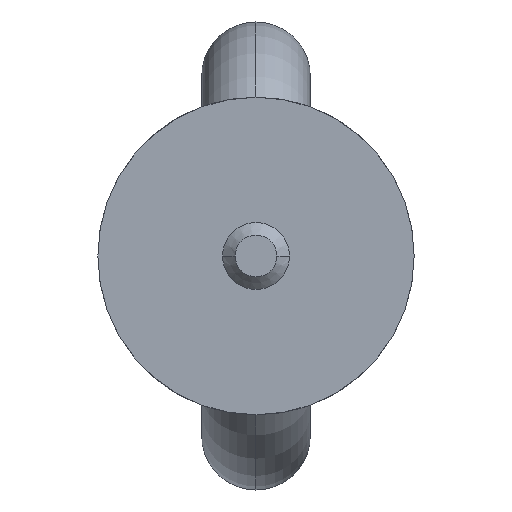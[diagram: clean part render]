
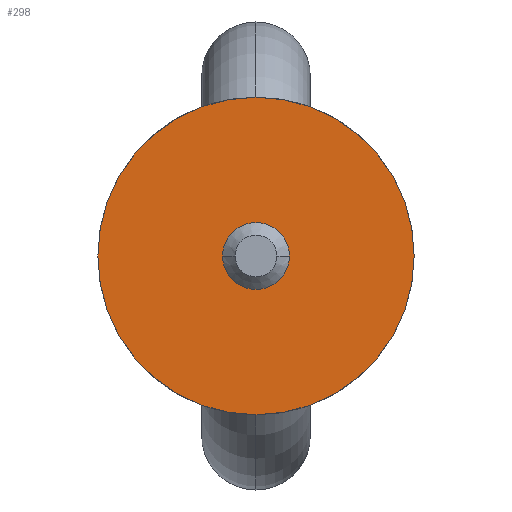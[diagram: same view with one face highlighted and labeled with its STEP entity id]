
A CAD part, front view. The second image highlights one B-rep face of the part: STEP entity #298.
In plain terms, the highlighted planar face has unit normal (0, -1, 0).
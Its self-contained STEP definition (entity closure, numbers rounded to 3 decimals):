
#298=ADVANCED_FACE('',(#791,#792),#793,.T.);
#791=FACE_OUTER_BOUND('',#1498,.T.);
#792=FACE_BOUND('',#1499,.T.);
#793=PLANE('',#1500);
#1498=EDGE_LOOP('',(#3948,#3949,#3950,#3951));
#1499=EDGE_LOOP('',(#3952,#3953,#3954));
#1500=AXIS2_PLACEMENT_3D('',#3955,#3956,#3957);
#3948=ORIENTED_EDGE('',*,*,#5764,.F.);
#3949=ORIENTED_EDGE('',*,*,#5710,.T.);
#3950=ORIENTED_EDGE('',*,*,#5765,.T.);
#3951=ORIENTED_EDGE('',*,*,#5718,.F.);
#3952=ORIENTED_EDGE('',*,*,#5733,.F.);
#3953=ORIENTED_EDGE('',*,*,#5732,.F.);
#3954=ORIENTED_EDGE('',*,*,#5761,.F.);
#3955=CARTESIAN_POINT('',(-25.0,-43.25,0.0));
#3956=DIRECTION('',(0.0,-1.0,0.0));
#3957=DIRECTION('',(0.0,0.0,-1.0));
#5710=EDGE_CURVE('',#6536,#6533,#6537,.T.);
#5718=EDGE_CURVE('',#6548,#6551,#6552,.T.);
#5732=EDGE_CURVE('',#6574,#6577,#6578,.T.);
#5733=EDGE_CURVE('',#6577,#6579,#6580,.T.);
#5761=EDGE_CURVE('',#6579,#6574,#6616,.T.);
#5764=EDGE_CURVE('',#6536,#6548,#6619,.T.);
#5765=EDGE_CURVE('',#6533,#6551,#6620,.T.);
#6533=VERTEX_POINT('',#7740);
#6536=VERTEX_POINT('',#7744);
#6537=CIRCLE('',#7745,18.921);
#6548=VERTEX_POINT('',#7795);
#6551=VERTEX_POINT('',#7799);
#6552=CIRCLE('',#7800,18.921);
#6574=VERTEX_POINT('',#7867);
#6577=VERTEX_POINT('',#7870);
#6578=CIRCLE('',#7871,3.55);
#6579=VERTEX_POINT('',#7872);
#6580=CIRCLE('',#7873,3.55);
#6616=CIRCLE('',#7915,3.55);
#6619=CIRCLE('',#7918,18.921);
#6620=CIRCLE('',#7919,18.921);
#7740=CARTESIAN_POINT('',(0.,-43.25,-19.0));
#7744=CARTESIAN_POINT('',(-18.921,-43.25,0.0));
#7745=AXIS2_PLACEMENT_3D('',#11063,#11064,#11065);
#7795=CARTESIAN_POINT('',(0.,-43.25,19.0));
#7799=CARTESIAN_POINT('',(18.921,-43.25,0.0));
#7800=AXIS2_PLACEMENT_3D('',#11075,#11076,#11077);
#7867=CARTESIAN_POINT('',(0.,-43.25,-3.55));
#7870=CARTESIAN_POINT('',(3.55,-43.25,0.));
#7871=AXIS2_PLACEMENT_3D('',#11100,#11101,#11102);
#7872=CARTESIAN_POINT('',(0.,-43.25,3.55));
#7873=AXIS2_PLACEMENT_3D('',#11103,#11104,#11105);
#7915=AXIS2_PLACEMENT_3D('',#11148,#11149,#11150);
#7918=AXIS2_PLACEMENT_3D('',#11151,#11152,#11153);
#7919=AXIS2_PLACEMENT_3D('',#11154,#11155,#11156);
#11063=CARTESIAN_POINT('',(0.0,-43.25,-0.079));
#11064=DIRECTION('',(0.0,-1.0,0.0));
#11065=DIRECTION('',(0.0,0.0,-1.0));
#11075=CARTESIAN_POINT('',(0.0,-43.25,0.079));
#11076=DIRECTION('',(0.0,1.0,0.0));
#11077=DIRECTION('',(0.0,0.0,1.0));
#11100=CARTESIAN_POINT('',(0.0,-43.25,0.0));
#11101=DIRECTION('',(0.0,-1.0,0.0));
#11102=DIRECTION('',(-1.0,0.0,0.0));
#11103=CARTESIAN_POINT('',(0.0,-43.25,0.0));
#11104=DIRECTION('',(0.0,-1.0,0.0));
#11105=DIRECTION('',(-1.0,0.0,0.0));
#11148=CARTESIAN_POINT('',(0.0,-43.25,0.0));
#11149=DIRECTION('',(0.0,-1.0,0.0));
#11150=DIRECTION('',(-1.0,0.0,0.0));
#11151=CARTESIAN_POINT('',(0.0,-43.25,0.079));
#11152=DIRECTION('',(0.0,1.0,0.0));
#11153=DIRECTION('',(0.0,0.0,1.0));
#11154=CARTESIAN_POINT('',(0.0,-43.25,-0.079));
#11155=DIRECTION('',(0.0,-1.0,0.0));
#11156=DIRECTION('',(0.0,0.0,-1.0));
